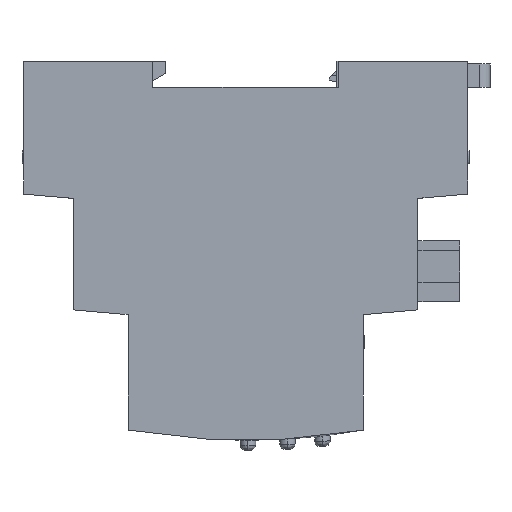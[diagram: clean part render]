
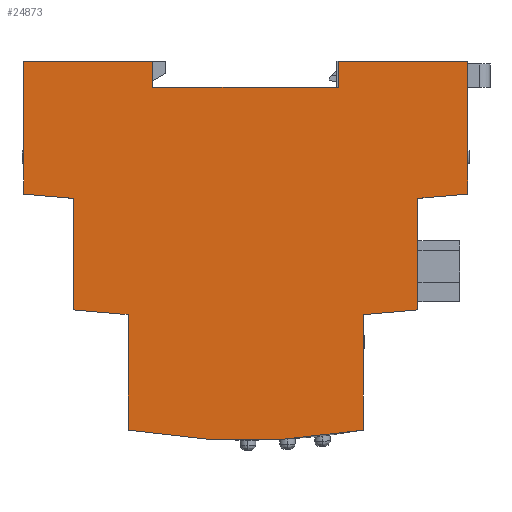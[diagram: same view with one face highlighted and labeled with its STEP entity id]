
A CAD part, front view. The second image highlights one B-rep face of the part: STEP entity #24873.
In plain terms, the highlighted planar face has unit normal (0, -1, 0).
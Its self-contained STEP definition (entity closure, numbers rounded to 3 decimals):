
#1719=DIRECTION('',(0.,0.,1.));
#1720=VECTOR('',#1719,25.406);
#1721=CARTESIAN_POINT('',(42.5,0.,-20.406));
#1722=LINE('',#1721,#1720);
#4285=DIRECTION('',(1.,0.,0.));
#4286=VECTOR('',#4285,24.75);
#4287=CARTESIAN_POINT('',(-42.5,0.,5.));
#4288=LINE('',#4287,#4286);
#4292=DIRECTION('',(0.,0.,-1.));
#4293=VECTOR('',#4292,5.);
#4294=CARTESIAN_POINT('',(-17.75,0.,5.));
#4295=LINE('',#4294,#4293);
#4299=DIRECTION('',(1.,0.,0.));
#4300=VECTOR('',#4299,35.5);
#4301=CARTESIAN_POINT('',(-17.75,0.,0.));
#4302=LINE('',#4301,#4300);
#4306=DIRECTION('',(0.,0.,1.));
#4307=VECTOR('',#4306,5.);
#4308=CARTESIAN_POINT('',(17.75,0.,0.));
#4309=LINE('',#4308,#4307);
#4313=DIRECTION('',(1.,0.,0.));
#4314=VECTOR('',#4313,24.75);
#4315=CARTESIAN_POINT('',(17.75,0.,5.));
#4316=LINE('',#4315,#4314);
#4320=DIRECTION('',(0.996,0.,0.087));
#4321=VECTOR('',#4320,9.536);
#4322=CARTESIAN_POINT('',(33.,0.,-21.238));
#4323=LINE('',#4322,#4321);
#4327=DIRECTION('',(0.,0.,1.));
#4328=VECTOR('',#4327,21.34);
#4329=CARTESIAN_POINT('',(33.,0.,-42.578));
#4330=LINE('',#4329,#4328);
#4334=DIRECTION('',(0.996,0.,0.087));
#4335=VECTOR('',#4334,10.54);
#4336=CARTESIAN_POINT('',(22.5,0.,-43.496));
#4337=LINE('',#4336,#4335);
#4341=CARTESIAN_POINT('',(0.,0.,65.049));
#4342=DIRECTION('',(0.,1.,0.));
#4343=DIRECTION('',(0.17,0.,-0.985));
#4344=AXIS2_PLACEMENT_3D('',#4341,#4342,#4343);
#4349=DIRECTION('',(-0.996,0.,0.087));
#4350=VECTOR('',#4349,10.54);
#4351=CARTESIAN_POINT('',(-22.5,0.,-43.496));
#4352=LINE('',#4351,#4350);
#4356=DIRECTION('',(0.,0.,1.));
#4357=VECTOR('',#4356,21.34);
#4358=CARTESIAN_POINT('',(-33.,0.,-42.578));
#4359=LINE('',#4358,#4357);
#4363=DIRECTION('',(-0.996,0.,0.087));
#4364=VECTOR('',#4363,9.536);
#4365=CARTESIAN_POINT('',(-33.,0.,-21.238));
#4366=LINE('',#4365,#4364);
#4377=DIRECTION('',(0.,0.,-1.));
#4378=VECTOR('',#4377,25.406);
#4379=CARTESIAN_POINT('',(-42.5,0.,5.));
#4380=LINE('',#4379,#4378);
#6436=DIRECTION('',(0.,0.,-1.));
#6437=VECTOR('',#6436,22.107);
#6438=CARTESIAN_POINT('',(-22.5,0.,-43.496));
#6439=LINE('',#6438,#6437);
#6634=DIRECTION('',(0.,0.,1.));
#6635=VECTOR('',#6634,22.107);
#6636=CARTESIAN_POINT('',(22.5,0.,-65.603));
#6637=LINE('',#6636,#6635);
#20205=CARTESIAN_POINT('',(-33.,0.,-42.578));
#20207=VERTEX_POINT('',#20205);
#20210=CARTESIAN_POINT('',(-22.5,0.,-43.496));
#20212=VERTEX_POINT('',#20210);
#20213=CARTESIAN_POINT('',(-33.,0.,-21.238));
#20215=VERTEX_POINT('',#20213);
#20219=CARTESIAN_POINT('',(-42.5,0.,-20.406));
#20220=VERTEX_POINT('',#20219);
#20221=CARTESIAN_POINT('',(33.,0.,-42.578));
#20223=VERTEX_POINT('',#20221);
#20226=CARTESIAN_POINT('',(22.5,0.,-43.496));
#20228=VERTEX_POINT('',#20226);
#20229=CARTESIAN_POINT('',(33.,0.,-21.238));
#20231=VERTEX_POINT('',#20229);
#20235=CARTESIAN_POINT('',(42.5,0.,-20.406));
#20236=VERTEX_POINT('',#20235);
#22985=CARTESIAN_POINT('',(22.5,0.,-65.603));
#22986=CARTESIAN_POINT('',(-22.5,0.,-65.603));
#22987=VERTEX_POINT('',#22985);
#22988=VERTEX_POINT('',#22986);
#23335=CARTESIAN_POINT('',(-42.5,0.,5.));
#23336=CARTESIAN_POINT('',(-17.75,0.,5.));
#23337=VERTEX_POINT('',#23335);
#23338=VERTEX_POINT('',#23336);
#23339=CARTESIAN_POINT('',(-17.75,0.,0.));
#23340=VERTEX_POINT('',#23339);
#23341=CARTESIAN_POINT('',(17.75,0.,0.));
#23342=VERTEX_POINT('',#23341);
#23343=CARTESIAN_POINT('',(17.75,0.,5.));
#23344=VERTEX_POINT('',#23343);
#23345=CARTESIAN_POINT('',(42.5,0.,5.));
#23346=VERTEX_POINT('',#23345);
#24837=CARTESIAN_POINT('',(0.,0.,-1.5));
#24838=DIRECTION('',(0.,-1.,0.));
#24839=DIRECTION('',(-1.,0.,0.));
#24840=AXIS2_PLACEMENT_3D('',#24837,#24838,#24839);
#24841=PLANE('',#24840);
#24843=ORIENTED_EDGE('',*,*,#24842,.F.);
#24845=ORIENTED_EDGE('',*,*,#24844,.T.);
#24847=ORIENTED_EDGE('',*,*,#24846,.T.);
#24848=ORIENTED_EDGE('',*,*,#24234,.T.);
#24850=ORIENTED_EDGE('',*,*,#24849,.T.);
#24851=ORIENTED_EDGE('',*,*,#24819,.T.);
#24852=ORIENTED_EDGE('',*,*,#23584,.F.);
#24854=ORIENTED_EDGE('',*,*,#24853,.F.);
#24856=ORIENTED_EDGE('',*,*,#24855,.F.);
#24858=ORIENTED_EDGE('',*,*,#24857,.F.);
#24860=ORIENTED_EDGE('',*,*,#24859,.F.);
#24862=ORIENTED_EDGE('',*,*,#24861,.T.);
#24864=ORIENTED_EDGE('',*,*,#24863,.F.);
#24866=ORIENTED_EDGE('',*,*,#24865,.T.);
#24868=ORIENTED_EDGE('',*,*,#24867,.T.);
#24870=ORIENTED_EDGE('',*,*,#24869,.T.);
#24871=EDGE_LOOP('',(#24843,#24845,#24847,#24848,#24850,#24851,#24852,#24854,
#24856,#24858,#24860,#24862,#24864,#24866,#24868,#24870));
#24872=FACE_OUTER_BOUND('',#24871,.F.);
#4345=CIRCLE('',#4344,132.576);
#23584=EDGE_CURVE('',#20236,#23346,#1722,.T.);
#24234=EDGE_CURVE('',#23340,#23342,#4302,.T.);
#24819=EDGE_CURVE('',#23344,#23346,#4316,.T.);
#24842=EDGE_CURVE('',#23337,#20220,#4380,.T.);
#24844=EDGE_CURVE('',#23337,#23338,#4288,.T.);
#24846=EDGE_CURVE('',#23338,#23340,#4295,.T.);
#24849=EDGE_CURVE('',#23342,#23344,#4309,.T.);
#24853=EDGE_CURVE('',#20231,#20236,#4323,.T.);
#24855=EDGE_CURVE('',#20223,#20231,#4330,.T.);
#24857=EDGE_CURVE('',#20228,#20223,#4337,.T.);
#24859=EDGE_CURVE('',#22987,#20228,#6637,.T.);
#24861=EDGE_CURVE('',#22987,#22988,#4345,.T.);
#24863=EDGE_CURVE('',#20212,#22988,#6439,.T.);
#24865=EDGE_CURVE('',#20212,#20207,#4352,.T.);
#24867=EDGE_CURVE('',#20207,#20215,#4359,.T.);
#24869=EDGE_CURVE('',#20215,#20220,#4366,.T.);
#24873=ADVANCED_FACE('',(#24872),#24841,.T.);
